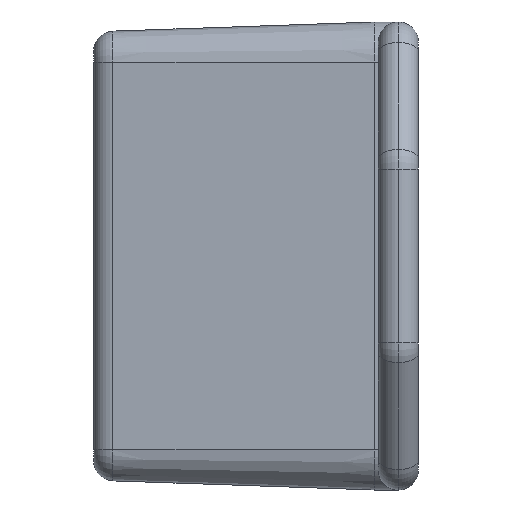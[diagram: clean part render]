
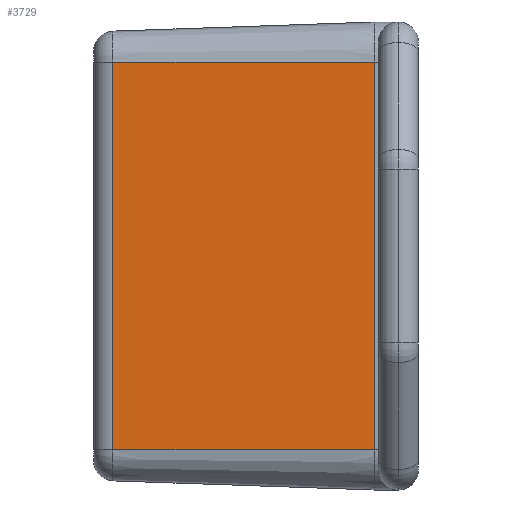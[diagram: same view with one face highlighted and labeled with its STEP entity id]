
A CAD part, left-side view. The second image highlights one B-rep face of the part: STEP entity #3729.
In plain terms, the highlighted planar face has unit normal (-0.999, 0.035, 0).
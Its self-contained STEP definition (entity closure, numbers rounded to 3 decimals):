
#30 = ORIENTED_EDGE ( 'NONE', *, *, #1499, .T. ) ;
#35 = DIRECTION ( 'NONE',  ( -0.999, 0.035, 0. ) ) ;
#247 = CARTESIAN_POINT ( 'NONE',  ( -25., 0., -14.5 ) ) ;
#350 = LINE ( 'NONE', #4715, #2451 ) ;
#501 = EDGE_LOOP ( 'NONE', ( #3722, #30, #2038, #4529 ) ) ;
#678 = CARTESIAN_POINT ( 'NONE',  ( -25., 0., 14.5 ) ) ;
#779 = VERTEX_POINT ( 'NONE', #247 ) ;
#849 = CARTESIAN_POINT ( 'NONE',  ( -25., 0., 14.5 ) ) ;
#1010 = LINE ( 'NONE', #2211, #2042 ) ;
#1161 = FACE_OUTER_BOUND ( 'NONE', #501, .T. ) ;
#1292 = VECTOR ( 'NONE', #4162, 1000. ) ;
#1499 = EDGE_CURVE ( 'NONE', #5115, #2995, #350, .T. ) ;
#1518 = PLANE ( 'NONE',  #3596 ) ;
#1557 = DIRECTION ( 'NONE',  ( -0.035, -0.999, 0. ) ) ;
#1574 = DIRECTION ( 'NONE',  ( -0.035, -0.999, 0. ) ) ;
#2023 = EDGE_CURVE ( 'NONE', #2995, #779, #3025, .T. ) ;
#2038 = ORIENTED_EDGE ( 'NONE', *, *, #2023, .T. ) ;
#2042 = VECTOR ( 'NONE', #1557, 1000. ) ;
#2211 = CARTESIAN_POINT ( 'NONE',  ( -25., 0., 14.5 ) ) ;
#2451 = VECTOR ( 'NONE', #4370, 1000. ) ;
#2457 = LINE ( 'NONE', #4033, #2671 ) ;
#2671 = VECTOR ( 'NONE', #4278, 1000. ) ;
#2995 = VERTEX_POINT ( 'NONE', #4861 ) ;
#3025 = LINE ( 'NONE', #4533, #1292 ) ;
#3095 = EDGE_CURVE ( 'NONE', #779, #4629, #2457, .T. ) ;
#3596 = AXIS2_PLACEMENT_3D ( 'NONE', #849, #35, #1574 ) ;
#3722 = ORIENTED_EDGE ( 'NONE', *, *, #4653, .F. ) ;
#3729 = ADVANCED_FACE ( 'NONE', ( #1161 ), #1518, .T. ) ;
#4033 = CARTESIAN_POINT ( 'NONE',  ( -25., 0., 14.5 ) ) ;
#4162 = DIRECTION ( 'NONE',  ( -0.035, -0.999, 0. ) ) ;
#4278 = DIRECTION ( 'NONE',  ( 0., 0., 1. ) ) ;
#4352 = CARTESIAN_POINT ( 'NONE',  ( -24.317, 19.552, 14.5 ) ) ;
#4370 = DIRECTION ( 'NONE',  ( 0., 0., -1. ) ) ;
#4529 = ORIENTED_EDGE ( 'NONE', *, *, #3095, .T. ) ;
#4533 = CARTESIAN_POINT ( 'NONE',  ( -25., 0., -14.5 ) ) ;
#4629 = VERTEX_POINT ( 'NONE', #678 ) ;
#4653 = EDGE_CURVE ( 'NONE', #5115, #4629, #1010, .T. ) ;
#4715 = CARTESIAN_POINT ( 'NONE',  ( -24.317, 19.552, 14.5 ) ) ;
#4861 = CARTESIAN_POINT ( 'NONE',  ( -24.317, 19.552, -14.5 ) ) ;
#5115 = VERTEX_POINT ( 'NONE', #4352 ) ;
